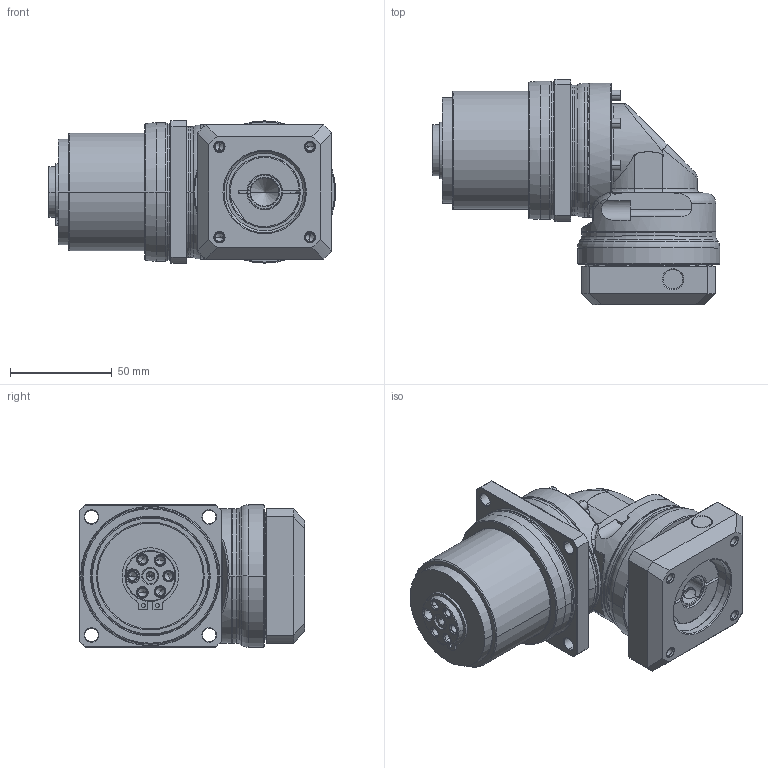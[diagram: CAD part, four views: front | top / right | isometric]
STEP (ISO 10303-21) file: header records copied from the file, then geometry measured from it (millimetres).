
FILE_DESCRIPTION((''),'2;1');
FILE_NAME('PLR070_1ST_14-P0411300101_ASM','2016-06-14T',('d00435'),(''),'PRO/ENGINEER BY PARAMETRIC TECHNOLOGY CORPORATION, 2008410','PRO/ENGINEER BY PARAMETRIC TECHNOLOGY CORPORATION, 2008410','');
FILE_SCHEMA(('CONFIG_CONTROL_DESIGN'));
Length unit declared in the file: millimetre
Products named in the file (10): P0272200001; P1353200001; P0366200001; 22802000015; P1017210001; P1350200201; P0411300101; P0503300005; P0713200201; PLR070_1ST_14-P0411300101_ASM
Assembly tree (9 placements, depth 2):
  PLR070_1ST_14-P0411300101_ASM
    P0272200001
    P1353200001
    P0366200001
    22802000015
    P1017210001
    P1350200201
    P0411300101
    P0503300005
    P0713200201
Bounding box: 141.5 x 111 x 70 mm (x, y, z)
Volume: 458499.3 mm3; surface area: 114821.8 mm2
Topology: 9 solids, 24 shells, 589 faces, 1363 edges, 818 vertices
Faces by surface type: cylinder 201, cone 160, plane 126, torus 72, bspline 30
Entity records: 19560 total; most frequent: CARTESIAN_POINT 6035, DIRECTION 2992, ORIENTED_EDGE 2594, EDGE_CURVE 1327, AXIS2_PLACEMENT_3D 1261, VERTEX_POINT 818, CIRCLE 675, EDGE_LOOP 673
